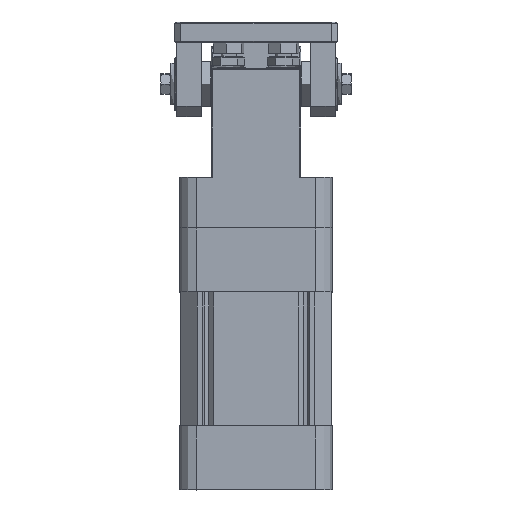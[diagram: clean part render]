
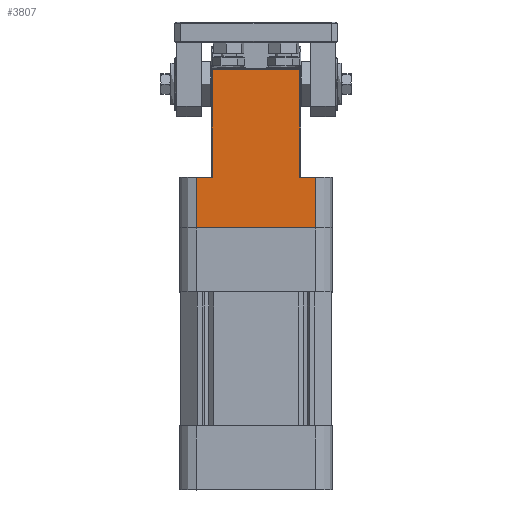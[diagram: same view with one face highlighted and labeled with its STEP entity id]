
A CAD part, top view. The second image highlights one B-rep face of the part: STEP entity #3807.
In plain terms, the highlighted planar face has unit normal (0, 0, 1).
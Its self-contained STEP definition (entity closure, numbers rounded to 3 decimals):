
#2833=PLANE('',#26775);
#3807=ADVANCED_FACE('',(#5532),#2833,.T.);
#5532=FACE_OUTER_BOUND('',#6870,.T.);
#6870=EDGE_LOOP('',(#12443,#12444,#12445,#12446,#12447,#12448,#12449,#12450));
#12443=ORIENTED_EDGE('',*,*,#20737,.T.);
#12444=ORIENTED_EDGE('',*,*,#20738,.T.);
#12445=ORIENTED_EDGE('',*,*,#20669,.T.);
#12446=ORIENTED_EDGE('',*,*,#20736,.T.);
#12447=ORIENTED_EDGE('',*,*,#20733,.T.);
#12448=ORIENTED_EDGE('',*,*,#20713,.T.);
#12449=ORIENTED_EDGE('',*,*,#20659,.T.);
#12450=ORIENTED_EDGE('',*,*,#20739,.T.);
#17593=VERTEX_POINT('',#58041);
#17594=VERTEX_POINT('',#58043);
#17603=VERTEX_POINT('',#58062);
#17604=VERTEX_POINT('',#58064);
#17643=VERTEX_POINT('',#58168);
#17658=VERTEX_POINT('',#58239);
#17660=VERTEX_POINT('',#58247);
#17661=VERTEX_POINT('',#58248);
#20659=EDGE_CURVE('',#17594,#17593,#23402,.T.);
#20669=EDGE_CURVE('',#17604,#17603,#23408,.T.);
#20713=EDGE_CURVE('',#17643,#17594,#23433,.T.);
#20733=EDGE_CURVE('',#17658,#17643,#23446,.T.);
#20736=EDGE_CURVE('',#17603,#17658,#23447,.T.);
#20737=EDGE_CURVE('',#17660,#17661,#23448,.T.);
#20738=EDGE_CURVE('',#17661,#17604,#23449,.T.);
#20739=EDGE_CURVE('',#17593,#17660,#23450,.T.);
#23402=LINE('',#58042,#24920);
#23408=LINE('',#58063,#24926);
#23433=LINE('',#58167,#24951);
#23446=LINE('',#58238,#24964);
#23447=LINE('',#58244,#24965);
#23448=LINE('',#58246,#24966);
#23449=LINE('',#58249,#24967);
#23450=LINE('',#58250,#24968);
#24920=VECTOR('',#30764,1.);
#24926=VECTOR('',#30780,1.);
#24951=VECTOR('',#30885,1.);
#24964=VECTOR('',#30912,1.);
#24965=VECTOR('',#30919,1.);
#24966=VECTOR('',#30922,1.);
#24967=VECTOR('',#30923,1.);
#24968=VECTOR('',#30924,1.);
#26775=AXIS2_PLACEMENT_3D('',#58251,#30925,#30926);
#30764=DIRECTION('',(-1.,0.,0.));
#30780=DIRECTION('',(-1.,0.,0.));
#30885=DIRECTION('',(0.,1.,0.));
#30912=DIRECTION('',(1.,0.,0.));
#30919=DIRECTION('',(0.,-1.,0.));
#30922=DIRECTION('',(-1.,0.,0.));
#30923=DIRECTION('',(0.,-1.,0.));
#30924=DIRECTION('',(0.,1.,0.));
#30925=DIRECTION('',(0.,0.,1.));
#30926=DIRECTION('',(-1.,0.,0.));
#58041=CARTESIAN_POINT('',(-178.501,154.,37.501));
#58042=CARTESIAN_POINT('',(-0.001,154.,37.505));
#58043=CARTESIAN_POINT('',(-170.501,154.,37.501));
#58062=CARTESIAN_POINT('',(-229.501,154.,37.499));
#58063=CARTESIAN_POINT('',(-0.001,154.,37.505));
#58064=CARTESIAN_POINT('',(-221.501,154.,37.5));
#58167=CARTESIAN_POINT('',(-170.501,210.,37.501));
#58168=CARTESIAN_POINT('',(-170.501,129.,37.501));
#58238=CARTESIAN_POINT('',(-200.001,129.,37.5));
#58239=CARTESIAN_POINT('',(-229.501,129.,37.499));
#58244=CARTESIAN_POINT('',(-229.501,124.,37.499));
#58246=CARTESIAN_POINT('',(-222.001,207.,37.5));
#58247=CARTESIAN_POINT('',(-178.501,207.,37.501));
#58248=CARTESIAN_POINT('',(-221.501,207.,37.5));
#58249=CARTESIAN_POINT('',(-221.501,154.,37.5));
#58250=CARTESIAN_POINT('',(-178.501,207.,37.501));
#58251=CARTESIAN_POINT('',(-200.001,210.,37.5));
